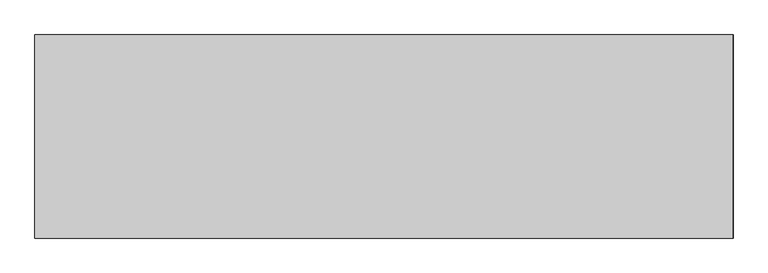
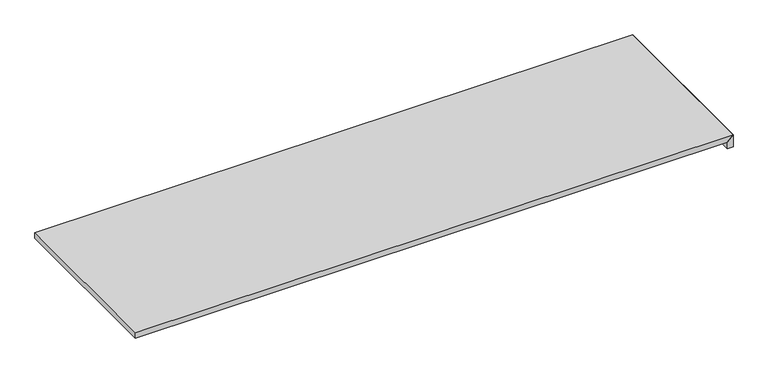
"""IFC4 building model written with IfcOpenShell, lengths in millimetres: proxy geometry, CCN^APOGEE_L3 WALL HUNG-78 TACK PARTS SOLID."""

from ifc_helpers import new_model, si_unit, frame, origin, place, context, project, spatial, polyline, outline, extrude, source, transform, mapped, element, save


def generic_models_58bf09ec(model_context):
    return source(origin(), model_context, "Body", "SweptSolid", [
        extrude(outline(polyline([(0.0, 1961.35625), (-23.8125, 1961.35625), (-23.8125, 1980.40625), (19.05, 1980.40625), (0.0, 1961.35625)])), frame((0.0, 0.0, 0.0), z_axis=(0.0, 1.0, 0.0), x_axis=(0.0, 0.0, 1.0)), (0.0, 0.0, 1.0), 576.2625),
        extrude(outline(polyline([(0.0, 1961.35625), (19.05, 1980.40625), (19.05, 0.0), (0.0, 0.0), (0.0, 1961.35625)])), frame((0.0, 0.0, 0.0), z_axis=(0.0, 1.0, 0.0), x_axis=(0.0, 0.0, 1.0)), (0.0, 0.0, 1.0), 576.2625),
    ])


if __name__ == "__main__":
    model = new_model("IFC4")
    model_context = context("Model", 3, world=origin())
    ifc_project = project(units=[si_unit("LENGTHUNIT", "METRE", prefix="MILLI")], contexts=[model_context])
    site = spatial("IfcSite", under=ifc_project)
    building = spatial("IfcBuilding", under=site)
    placement = place(None, origin())
    generic_models_shape = generic_models_58bf09ec(model_context)
    element("IfcBuildingElementProxy", 1, Name="CCN^APOGEE_L3 WALL HUNG-78 TACK PARTS SOLID", ObjectType="CCN^APOGEE_L3 WALL HUNG-78 TACK PARTS SOLID", at=placement, inside=building, context=model_context, shape_type="MappedRepresentation", body=[
        mapped(generic_models_shape, transform((0.0, 0.0, 0.0), x_axis=(1.0, 0.0, 0.0), y_axis=(0.0, 1.0, 0.0), z_axis=(0.0, 0.0, 1.0))),
    ])
    save(model, "model.ifc")
